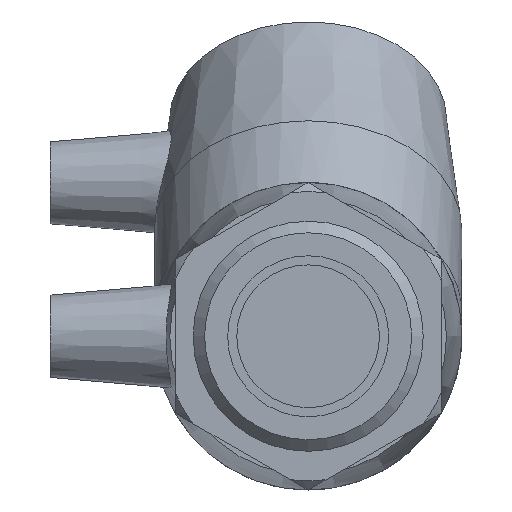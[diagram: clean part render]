
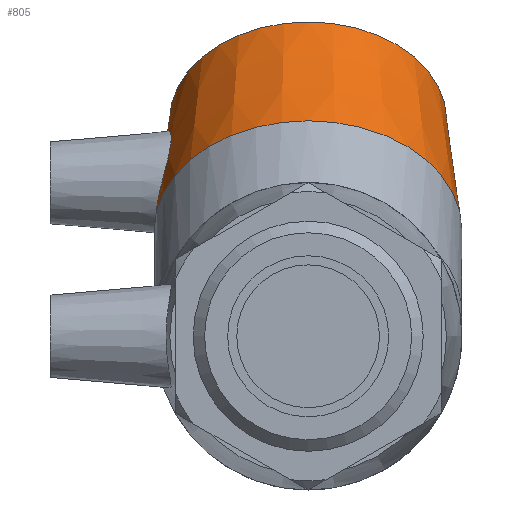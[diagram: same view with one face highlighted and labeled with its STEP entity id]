
A CAD part, left-side view. The second image highlights one B-rep face of the part: STEP entity #805.
In plain terms, the highlighted conical face has half-angle 5.66 degrees and reference radius 26.6 mm.
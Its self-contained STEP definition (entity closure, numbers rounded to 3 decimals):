
#15=B_SPLINE_CURVE_WITH_KNOTS('',3,(#1435,#1436,#1437,#1438,#1439,#1440,
#1441,#1442,#1443,#1444,#1445,#1446,#1447,#1448,#1449,#1450,#1451,#1452,
#1453,#1454,#1455,#1456,#1457,#1458,#1459,#1460,#1461,#1462,#1463,#1464,
#1465,#1466,#1467,#1468),.UNSPECIFIED.,.T.,.F.,(4,2,2,2,2,2,2,2,2,2,2,2,
2,2,2,2,4),(0.,0.344,0.688,1.035,1.381,
1.728,2.075,2.419,2.763,3.134,
3.505,3.868,4.23,4.593,4.955,
5.327,5.698),.UNSPECIFIED.);
#146=FACE_BOUND('',#294,.T.);
#147=FACE_BOUND('',#295,.T.);
#209=FACE_OUTER_BOUND('',#293,.T.);
#293=EDGE_LOOP('',(#709));
#294=EDGE_LOOP('',(#710));
#295=EDGE_LOOP('',(#711));
#357=CIRCLE('',#900,28.);
#361=CIRCLE('',#911,25.2);
#431=VERTEX_POINT('',#1430);
#432=VERTEX_POINT('',#1434);
#436=VERTEX_POINT('',#1480);
#527=EDGE_CURVE('',#431,#431,#357,.T.);
#529=EDGE_CURVE('',#432,#432,#15,.T.);
#533=EDGE_CURVE('',#436,#436,#361,.T.);
#709=ORIENTED_EDGE('',*,*,#527,.F.);
#710=ORIENTED_EDGE('',*,*,#529,.T.);
#711=ORIENTED_EDGE('',*,*,#533,.T.);
#753=CONICAL_SURFACE('',#912,26.6,5.66);
#805=ADVANCED_FACE('',(#209,#146,#147),#753,.T.);
#900=AXIS2_PLACEMENT_3D('',#1431,#1111,#1112);
#911=AXIS2_PLACEMENT_3D('',#1481,#1133,#1134);
#912=AXIS2_PLACEMENT_3D('',#1482,#1135,#1136);
#1111=DIRECTION('center_axis',(-0.707,0.,
-0.707));
#1112=DIRECTION('ref_axis',(-0.707,0.,0.707));
#1133=DIRECTION('center_axis',(-0.707,0.,
-0.707));
#1134=DIRECTION('ref_axis',(-0.707,0.,0.707));
#1135=DIRECTION('center_axis',(-0.707,0.,
-0.707));
#1136=DIRECTION('ref_axis',(0.,1.,0.));
#1430=CARTESIAN_POINT('',(19.449,28.,19.449));
#1431=CARTESIAN_POINT('Origin',(19.449,0.,
19.449));
#1434=CARTESIAN_POINT('',(34.907,25.057,21.597));
#1435=CARTESIAN_POINT('Ctrl Pts',(34.907,25.057,21.597));
#1436=CARTESIAN_POINT('Ctrl Pts',(35.685,24.951,22.432));
#1437=CARTESIAN_POINT('Ctrl Pts',(36.35,24.928,23.48));
#1438=CARTESIAN_POINT('Ctrl Pts',(37.203,25.042,25.752));
#1439=CARTESIAN_POINT('Ctrl Pts',(37.392,25.173,26.976));
#1440=CARTESIAN_POINT('Ctrl Pts',(37.333,25.44,29.262));
#1441=CARTESIAN_POINT('Ctrl Pts',(37.078,25.595,30.482));
#1442=CARTESIAN_POINT('Ctrl Pts',(36.108,25.817,32.73));
#1443=CARTESIAN_POINT('Ctrl Pts',(35.393,25.88,33.759));
#1444=CARTESIAN_POINT('Ctrl Pts',(33.759,25.88,35.393));
#1445=CARTESIAN_POINT('Ctrl Pts',(32.73,25.817,36.108));
#1446=CARTESIAN_POINT('Ctrl Pts',(30.482,25.595,37.078));
#1447=CARTESIAN_POINT('Ctrl Pts',(29.262,25.44,37.333));
#1448=CARTESIAN_POINT('Ctrl Pts',(26.976,25.173,37.392));
#1449=CARTESIAN_POINT('Ctrl Pts',(25.752,25.042,37.203));
#1450=CARTESIAN_POINT('Ctrl Pts',(23.48,24.928,36.35));
#1451=CARTESIAN_POINT('Ctrl Pts',(22.432,24.951,35.685));
#1452=CARTESIAN_POINT('Ctrl Pts',(20.696,25.171,34.066));
#1453=CARTESIAN_POINT('Ctrl Pts',(19.932,25.395,32.993));
#1454=CARTESIAN_POINT('Ctrl Pts',(18.927,25.968,30.643));
#1455=CARTESIAN_POINT('Ctrl Pts',(18.684,26.311,29.366));
#1456=CARTESIAN_POINT('Ctrl Pts',(18.685,26.905,26.993));
#1457=CARTESIAN_POINT('Ctrl Pts',(18.919,27.198,25.735));
#1458=CARTESIAN_POINT('Ctrl Pts',(19.883,27.606,23.4));
#1459=CARTESIAN_POINT('Ctrl Pts',(20.615,27.717,22.324));
#1460=CARTESIAN_POINT('Ctrl Pts',(22.324,27.717,20.615));
#1461=CARTESIAN_POINT('Ctrl Pts',(23.4,27.606,19.883));
#1462=CARTESIAN_POINT('Ctrl Pts',(25.735,27.198,18.919));
#1463=CARTESIAN_POINT('Ctrl Pts',(26.993,26.905,18.685));
#1464=CARTESIAN_POINT('Ctrl Pts',(29.366,26.311,18.684));
#1465=CARTESIAN_POINT('Ctrl Pts',(30.643,25.968,18.927));
#1466=CARTESIAN_POINT('Ctrl Pts',(32.993,25.395,19.932));
#1467=CARTESIAN_POINT('Ctrl Pts',(34.066,25.171,20.696));
#1468=CARTESIAN_POINT('Ctrl Pts',(34.907,25.057,21.597));
#1480=CARTESIAN_POINT('',(39.425,25.2,39.425));
#1481=CARTESIAN_POINT('Origin',(39.425,0.,39.425));
#1482=CARTESIAN_POINT('Origin',(29.437,0.,
29.437));
